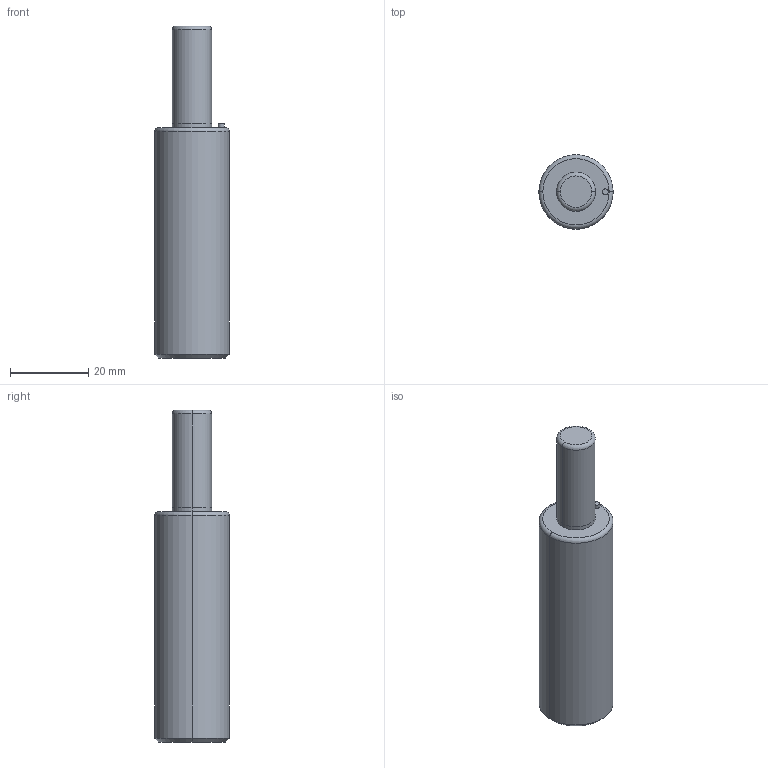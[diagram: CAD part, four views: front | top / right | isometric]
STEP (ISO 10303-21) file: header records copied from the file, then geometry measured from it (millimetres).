
FILE_DESCRIPTION(/* description */ (''),/* implementation_level */ '2;1');
FILE_NAME(/* name */ '3d_mgsc19-25_04568_r00.stp',/* time_stamp */ '2011-01-10T14:13:35+09:00',/* author */ ('MISUMI'),/* organization */ (''),/* preprocessor_version */ 'ST-DEVELOPER v11',/* originating_system */ 'UGS - NX 5.0',/* authorisation */ '');
FILE_SCHEMA (('CONFIG_CONTROL_DESIGN'));
Length unit declared in the file: millimetre
Products named in the file (1): 3d_mgsc19-25_04568_r00
Bounding box: 19 x 19 x 85 mm (x, y, z)
Volume: 18518.5 mm3; surface area: 4994.2 mm2
Topology: 1 solids, 1 shells, 24 faces, 48 edges, 27 vertices
Faces by surface type: cylinder 12, plane 4, torus 4, cone 4
Entity records: 698 total; most frequent: DIRECTION 126, CARTESIAN_POINT 98, ORIENTED_EDGE 92, AXIS2_PLACEMENT_3D 55, EDGE_CURVE 46, CIRCLE 30, EDGE_LOOP 27, VERTEX_POINT 27
